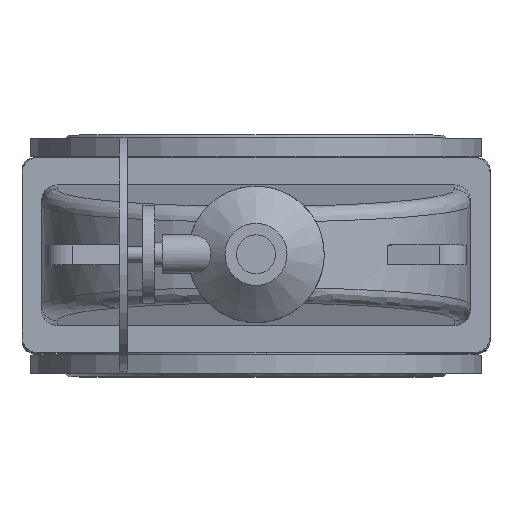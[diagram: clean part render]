
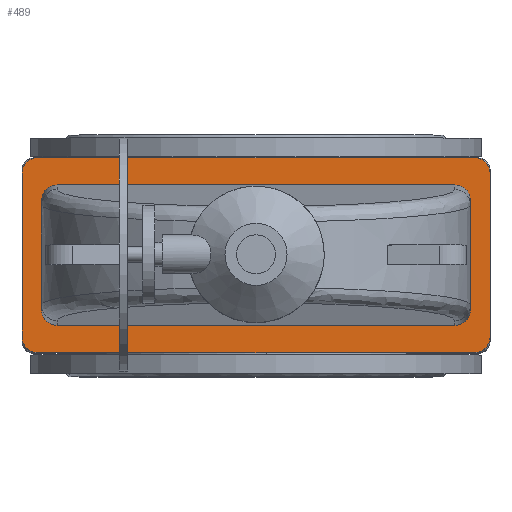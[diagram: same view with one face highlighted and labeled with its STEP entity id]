
A CAD part, top view. The second image highlights one B-rep face of the part: STEP entity #489.
In plain terms, the highlighted planar face has unit normal (0, 0, 1).
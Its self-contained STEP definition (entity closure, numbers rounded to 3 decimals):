
#489=ADVANCED_FACE('',(#4182,#4184),#4186,.T.);
#4182=FACE_BOUND('',#4183,.T.);
#4183=EDGE_LOOP('',(#7902,#7903,#7904,#7905,#7906,#7907,#7908,#7909));
#4184=FACE_BOUND('',#4185,.T.);
#4185=EDGE_LOOP('',(#7910,#7911,#7912,#7913,#7914,#7915,#7916,#7917));
#4186=PLANE('',#4187);
#4187=AXIS2_PLACEMENT_3D('',#4188,#4189,#4190);
#4188=CARTESIAN_POINT('',(0.,0.,636.));
#4189=DIRECTION('',(0.,-0.,1.));
#4190=DIRECTION('',(0.,1.,0.));
#7902=ORIENTED_EDGE('',*,*,#9766,.F.);
#7903=ORIENTED_EDGE('',*,*,#9767,.T.);
#7904=ORIENTED_EDGE('',*,*,#9768,.F.);
#7905=ORIENTED_EDGE('',*,*,#9769,.T.);
#7906=ORIENTED_EDGE('',*,*,#9770,.F.);
#7907=ORIENTED_EDGE('',*,*,#9771,.T.);
#7908=ORIENTED_EDGE('',*,*,#9772,.F.);
#7909=ORIENTED_EDGE('',*,*,#9773,.T.);
#7910=ORIENTED_EDGE('',*,*,#9745,.F.);
#7911=ORIENTED_EDGE('',*,*,#9744,.F.);
#7912=ORIENTED_EDGE('',*,*,#9742,.F.);
#7913=ORIENTED_EDGE('',*,*,#9730,.F.);
#7914=ORIENTED_EDGE('',*,*,#9763,.F.);
#7915=ORIENTED_EDGE('',*,*,#9761,.F.);
#7916=ORIENTED_EDGE('',*,*,#9759,.F.);
#7917=ORIENTED_EDGE('',*,*,#9747,.F.);
#9730=EDGE_CURVE('',#10749,#10747,#10751,.T.);
#9742=EDGE_CURVE('',#10747,#10768,#10770,.T.);
#9744=EDGE_CURVE('',#10768,#10771,#10773,.T.);
#9745=EDGE_CURVE('',#10771,#10774,#10775,.F.);
#9747=EDGE_CURVE('',#10774,#10777,#10778,.T.);
#9759=EDGE_CURVE('',#10777,#10796,#10797,.T.);
#9761=EDGE_CURVE('',#10796,#10799,#10800,.T.);
#9763=EDGE_CURVE('',#10799,#10749,#10802,.F.);
#9766=EDGE_CURVE('',#10807,#10808,#10809,.F.);
#9767=EDGE_CURVE('',#10807,#10810,#10811,.T.);
#9768=EDGE_CURVE('',#10812,#10810,#10813,.F.);
#9769=EDGE_CURVE('',#10812,#10814,#10815,.T.);
#9770=EDGE_CURVE('',#10816,#10814,#10817,.F.);
#9771=EDGE_CURVE('',#10816,#10818,#10819,.T.);
#9772=EDGE_CURVE('',#10820,#10818,#10821,.F.);
#9773=EDGE_CURVE('',#10820,#10808,#10822,.T.);
#10747=VERTEX_POINT('',#13016);
#10749=VERTEX_POINT('',#13020);
#10751=LINE('',#13024,#13025);
#10768=VERTEX_POINT('',#13067);
#10770=(BOUNDED_CURVE()B_SPLINE_CURVE(3,
(#13071,#13072,#13073,#13074),
.UNSPECIFIED.,.F.,.F.)B_SPLINE_CURVE_WITH_KNOTS((4,4),
(0.,1.),
.UNSPECIFIED.)CURVE()GEOMETRIC_REPRESENTATION_ITEM()RATIONAL_B_SPLINE_CURVE((1.,
0.805,0.805,1.))REPRESENTATION_ITEM(''));
#10771=VERTEX_POINT('',#13075);
#10773=LINE('',#13079,#13080);
#10774=VERTEX_POINT('',#13082);
#10775=(BOUNDED_CURVE()B_SPLINE_CURVE(3,
(#13083,#13084,#13085,#13086),
.UNSPECIFIED.,.F.,.F.)B_SPLINE_CURVE_WITH_KNOTS((4,4),
(0.,1.),
.UNSPECIFIED.)CURVE()GEOMETRIC_REPRESENTATION_ITEM()RATIONAL_B_SPLINE_CURVE((1.,
0.805,0.805,1.))REPRESENTATION_ITEM(''));
#10777=VERTEX_POINT('',#13090);
#10778=LINE('',#13091,#13092);
#10796=VERTEX_POINT('',#13137);
#10797=(BOUNDED_CURVE()B_SPLINE_CURVE(3,
(#13138,#13139,#13140,#13141),
.UNSPECIFIED.,.F.,.F.)B_SPLINE_CURVE_WITH_KNOTS((4,4),
(0.,1.),
.UNSPECIFIED.)CURVE()GEOMETRIC_REPRESENTATION_ITEM()RATIONAL_B_SPLINE_CURVE((1.,
0.805,0.805,1.))REPRESENTATION_ITEM(''));
#10799=VERTEX_POINT('',#13145);
#10800=LINE('',#13146,#13147);
#10802=(BOUNDED_CURVE()B_SPLINE_CURVE(3,
(#13152,#13153,#13154,#13155),
.UNSPECIFIED.,.F.,.F.)B_SPLINE_CURVE_WITH_KNOTS((4,4),
(0.,1.),
.UNSPECIFIED.)CURVE()GEOMETRIC_REPRESENTATION_ITEM()RATIONAL_B_SPLINE_CURVE((1.,
0.805,0.805,1.))REPRESENTATION_ITEM(''));
#10807=VERTEX_POINT('',#13166);
#10808=VERTEX_POINT('',#13167);
#10809=CIRCLE('',#13168,20.);
#10810=VERTEX_POINT('',#13172);
#10811=LINE('',#13173,#13174);
#10812=VERTEX_POINT('',#13176);
#10813=CIRCLE('',#13177,20.);
#10814=VERTEX_POINT('',#13181);
#10815=LINE('',#13182,#13183);
#10816=VERTEX_POINT('',#13185);
#10817=CIRCLE('',#13186,20.);
#10818=VERTEX_POINT('',#13190);
#10819=LINE('',#13191,#13192);
#10820=VERTEX_POINT('',#13194);
#10821=CIRCLE('',#13195,20.);
#10822=LINE('',#13199,#13200);
#13016=CARTESIAN_POINT('',(-275.,-69.924,636.));
#13020=CARTESIAN_POINT('',(-275.,69.924,636.));
#13024=CARTESIAN_POINT('',(-275.,69.924,636.));
#13025=VECTOR('',#13026,1.);
#13026=DIRECTION('',(0.,-1.,0.));
#13067=CARTESIAN_POINT('',(-255.,-90.,636.));
#13071=CARTESIAN_POINT('',(-275.,-69.924,636.));
#13072=CARTESIAN_POINT('',(-275.,-81.684,636.));
#13073=CARTESIAN_POINT('',(-266.716,-90.,636.));
#13074=CARTESIAN_POINT('',(-255.,-90.,636.));
#13075=CARTESIAN_POINT('',(255.,-90.,636.));
#13079=CARTESIAN_POINT('',(-255.,-90.,636.));
#13080=VECTOR('',#13081,1.);
#13081=DIRECTION('',(1.,0.,0.));
#13082=CARTESIAN_POINT('',(275.,-69.924,636.));
#13083=CARTESIAN_POINT('',(275.,-69.924,636.));
#13084=CARTESIAN_POINT('',(275.,-81.684,636.));
#13085=CARTESIAN_POINT('',(266.716,-90.,636.));
#13086=CARTESIAN_POINT('',(255.,-90.,636.));
#13090=CARTESIAN_POINT('',(275.,69.924,636.));
#13091=CARTESIAN_POINT('',(275.,-69.924,636.));
#13092=VECTOR('',#13093,1.);
#13093=DIRECTION('',(0.,1.,0.));
#13137=CARTESIAN_POINT('',(255.,90.,636.));
#13138=CARTESIAN_POINT('',(275.,69.924,636.));
#13139=CARTESIAN_POINT('',(275.,81.684,636.));
#13140=CARTESIAN_POINT('',(266.716,90.,636.));
#13141=CARTESIAN_POINT('',(255.,90.,636.));
#13145=CARTESIAN_POINT('',(-255.,90.,636.));
#13146=CARTESIAN_POINT('',(255.,90.,636.));
#13147=VECTOR('',#13148,1.);
#13148=DIRECTION('',(-1.,0.,0.));
#13152=CARTESIAN_POINT('',(-275.,69.924,636.));
#13153=CARTESIAN_POINT('',(-275.,81.684,636.));
#13154=CARTESIAN_POINT('',(-266.716,90.,636.));
#13155=CARTESIAN_POINT('',(-255.,90.,636.));
#13166=CARTESIAN_POINT('',(-280.,-125.,636.));
#13167=CARTESIAN_POINT('',(-300.,-105.,636.));
#13168=AXIS2_PLACEMENT_3D('',#13169,#13170,#13171);
#13169=CARTESIAN_POINT('',(-280.,-105.,636.));
#13170=DIRECTION('',(0.,-0.,1.));
#13171=DIRECTION('',(-1.,0.,0.));
#13172=CARTESIAN_POINT('',(280.,-125.,636.));
#13173=CARTESIAN_POINT('',(-280.,-125.,636.));
#13174=VECTOR('',#13175,1.);
#13175=DIRECTION('',(1.,0.,0.));
#13176=CARTESIAN_POINT('',(300.,-105.,636.));
#13177=AXIS2_PLACEMENT_3D('',#13178,#13179,#13180);
#13178=CARTESIAN_POINT('',(280.,-105.,636.));
#13179=DIRECTION('',(0.,-0.,1.));
#13180=DIRECTION('',(0.,-1.,0.));
#13181=CARTESIAN_POINT('',(300.,105.,636.));
#13182=CARTESIAN_POINT('',(300.,-105.,636.));
#13183=VECTOR('',#13184,1.);
#13184=DIRECTION('',(0.,1.,0.));
#13185=CARTESIAN_POINT('',(280.,125.,636.));
#13186=AXIS2_PLACEMENT_3D('',#13187,#13188,#13189);
#13187=CARTESIAN_POINT('',(280.,105.,636.));
#13188=DIRECTION('',(0.,-0.,1.));
#13189=DIRECTION('',(1.,0.,0.));
#13190=CARTESIAN_POINT('',(-280.,125.,636.));
#13191=CARTESIAN_POINT('',(280.,125.,636.));
#13192=VECTOR('',#13193,1.);
#13193=DIRECTION('',(-1.,0.,0.));
#13194=CARTESIAN_POINT('',(-300.,105.,636.));
#13195=AXIS2_PLACEMENT_3D('',#13196,#13197,#13198);
#13196=CARTESIAN_POINT('',(-280.,105.,636.));
#13197=DIRECTION('',(0.,-0.,1.));
#13198=DIRECTION('',(0.,1.,0.));
#13199=CARTESIAN_POINT('',(-300.,105.,636.));
#13200=VECTOR('',#13201,1.);
#13201=DIRECTION('',(0.,-1.,0.));
